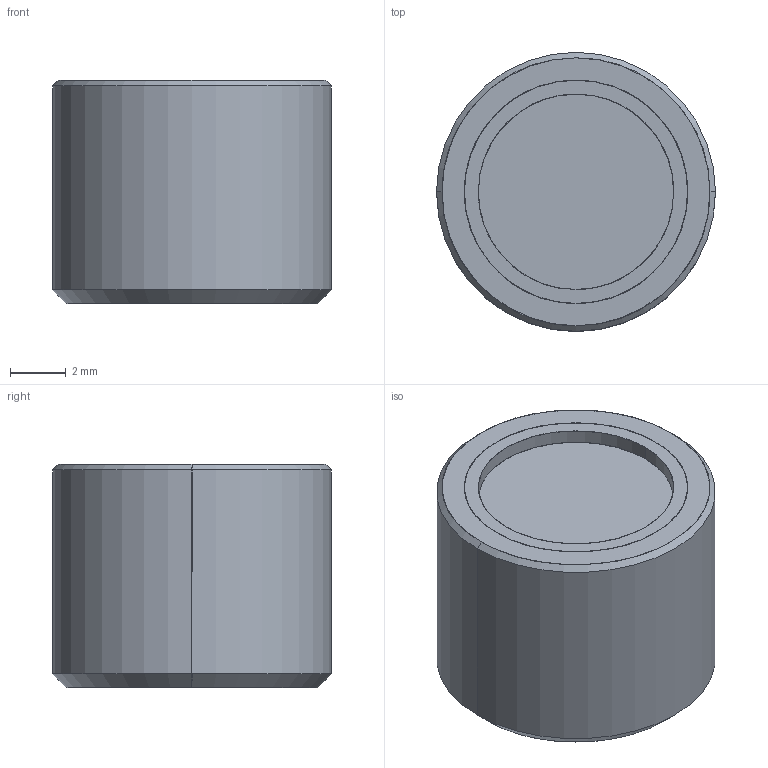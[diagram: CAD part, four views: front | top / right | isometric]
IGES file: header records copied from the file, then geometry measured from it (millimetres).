
Global section: file name: E:\UnigraphicsGraphicData\MISUMI_PRESS-PARTS\IGES\3d_hxu10_00547_r00.igs; native system: NX V5.0; preprocessor: UGS NX IGES V5.0; author: MISUMI; date: 20110105.161100; units: millimetre
Bounding box: 10 x 10 x 8 mm (x, y, z)
Surface area: 760.6 mm2 (no closed solid volume)
Topology: 0 solids, 0 shells, 26 faces, 184 edges, 184 vertices
Faces by surface type: bspline 26
